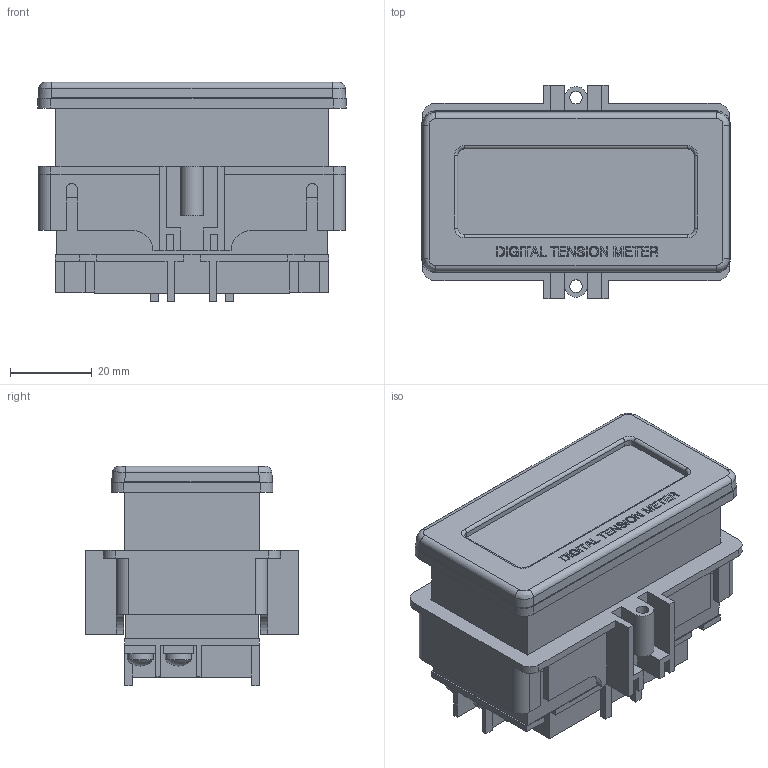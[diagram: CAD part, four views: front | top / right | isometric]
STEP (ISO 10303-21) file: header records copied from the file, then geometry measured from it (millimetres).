
FILE_DESCRIPTION((''),'2;1');
FILE_NAME('J:\WIP\Magpowr WEB\3D (Models)\Tension Meters\DTM\DTM.stp','2013-01-29T09:31:29',('JReyes'),(''),'Autodesk Inventor 2012','Autodesk Inventor 2012','');
FILE_SCHEMA(('AUTOMOTIVE_DESIGN { 1 0 10303 214 1 1 1 1 }'));
Length unit declared in the file: inch
Products named in the file (1): DTM
Bounding box: 75.23 x 52.12 x 53.53 mm (x, y, z)
Volume: 115583.2 mm3; surface area: 29640.4 mm2
Topology: 2 solids, 2 shells, 542 faces, 1475 edges, 969 vertices
Faces by surface type: plane 428, bspline 62, cylinder 44, sphere 4, torus 4
Full cylindrical faces by diameter (mm): 3.048 x2, 6.35 x4
Entity records: 17777 total; most frequent: CARTESIAN_POINT 4158, ORIENTED_EDGE 2936, DIRECTION 2419, EDGE_CURVE 1468, VECTOR 1249, LINE 1249, VERTEX_POINT 968, EDGE_LOOP 586
